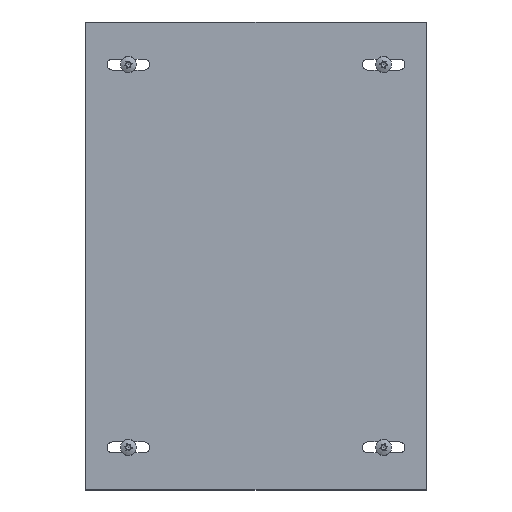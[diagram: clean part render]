
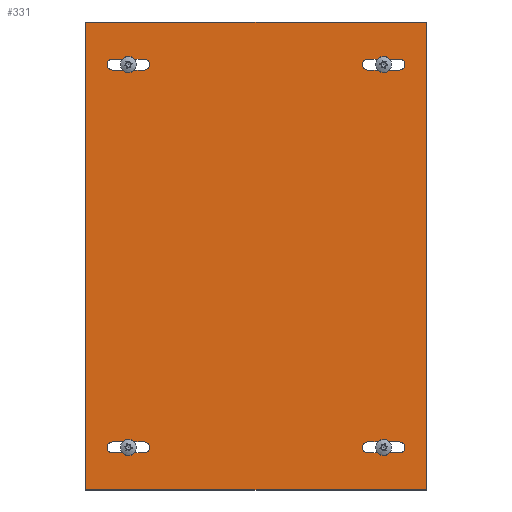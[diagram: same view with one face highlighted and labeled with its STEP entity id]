
A CAD part, top view. The second image highlights one B-rep face of the part: STEP entity #331.
In plain terms, the highlighted planar face has unit normal (0, 0, 1).
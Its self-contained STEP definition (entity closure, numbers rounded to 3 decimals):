
#55 = EDGE_CURVE('',#56,#58,#60,.T.);
#56 = VERTEX_POINT('',#57);
#57 = CARTESIAN_POINT('',(-100.,137.5,0.));
#58 = VERTEX_POINT('',#59);
#59 = CARTESIAN_POINT('',(-100.,-137.5,0.));
#60 = LINE('',#61,#62);
#61 = CARTESIAN_POINT('',(-100.,-137.5,0.));
#62 = VECTOR('',#63,1.);
#63 = DIRECTION('',(-0.,-1.,-0.));
#95 = EDGE_CURVE('',#96,#56,#98,.T.);
#96 = VERTEX_POINT('',#97);
#97 = CARTESIAN_POINT('',(100.,137.5,0.));
#98 = LINE('',#99,#100);
#99 = CARTESIAN_POINT('',(100.,137.5,0.));
#100 = VECTOR('',#101,1.);
#101 = DIRECTION('',(-1.,0.,0.));
#126 = EDGE_CURVE('',#127,#96,#129,.T.);
#127 = VERTEX_POINT('',#128);
#128 = CARTESIAN_POINT('',(100.,-137.5,0.));
#129 = LINE('',#130,#131);
#130 = CARTESIAN_POINT('',(100.,-137.5,0.));
#131 = VECTOR('',#132,1.);
#132 = DIRECTION('',(0.,1.,0.));
#157 = EDGE_CURVE('',#58,#127,#158,.T.);
#158 = LINE('',#159,#160);
#159 = CARTESIAN_POINT('',(100.,-137.5,0.));
#160 = VECTOR('',#161,1.);
#161 = DIRECTION('',(1.,-0.,-0.));
#331 = ADVANCED_FACE('',(#332,#368,#404,#440,#476),#482,.T.);
#332 = FACE_BOUND('',#333,.T.);
#333 = EDGE_LOOP('',(#334,#345,#353,#362));
#334 = ORIENTED_EDGE('',*,*,#335,.F.);
#335 = EDGE_CURVE('',#336,#338,#340,.T.);
#336 = VERTEX_POINT('',#337);
#337 = CARTESIAN_POINT('',(-65.75,-115.75,0.));
#338 = VERTEX_POINT('',#339);
#339 = CARTESIAN_POINT('',(-65.75,-109.25,0.));
#340 = CIRCLE('',#341,3.25);
#341 = AXIS2_PLACEMENT_3D('',#342,#343,#344);
#342 = CARTESIAN_POINT('',(-65.75,-112.5,0.));
#343 = DIRECTION('',(0.,0.,1.));
#344 = DIRECTION('',(1.,0.,-0.));
#345 = ORIENTED_EDGE('',*,*,#346,.F.);
#346 = EDGE_CURVE('',#347,#336,#349,.T.);
#347 = VERTEX_POINT('',#348);
#348 = CARTESIAN_POINT('',(-84.25,-115.75,0.));
#349 = LINE('',#350,#351);
#350 = CARTESIAN_POINT('',(-65.75,-115.75,0.));
#351 = VECTOR('',#352,1.);
#352 = DIRECTION('',(1.,-0.,-0.));
#353 = ORIENTED_EDGE('',*,*,#354,.F.);
#354 = EDGE_CURVE('',#355,#347,#357,.T.);
#355 = VERTEX_POINT('',#356);
#356 = CARTESIAN_POINT('',(-84.25,-109.25,0.));
#357 = CIRCLE('',#358,3.25);
#358 = AXIS2_PLACEMENT_3D('',#359,#360,#361);
#359 = CARTESIAN_POINT('',(-84.25,-112.5,0.));
#360 = DIRECTION('',(0.,0.,1.));
#361 = DIRECTION('',(1.,0.,-0.));
#362 = ORIENTED_EDGE('',*,*,#363,.F.);
#363 = EDGE_CURVE('',#338,#355,#364,.T.);
#364 = LINE('',#365,#366);
#365 = CARTESIAN_POINT('',(-65.75,-109.25,0.));
#366 = VECTOR('',#367,1.);
#367 = DIRECTION('',(-1.,0.,0.));
#368 = FACE_BOUND('',#369,.T.);
#369 = EDGE_LOOP('',(#370,#381,#389,#398));
#370 = ORIENTED_EDGE('',*,*,#371,.F.);
#371 = EDGE_CURVE('',#372,#374,#376,.T.);
#372 = VERTEX_POINT('',#373);
#373 = CARTESIAN_POINT('',(-65.75,109.25,0.));
#374 = VERTEX_POINT('',#375);
#375 = CARTESIAN_POINT('',(-65.75,115.75,0.));
#376 = CIRCLE('',#377,3.25);
#377 = AXIS2_PLACEMENT_3D('',#378,#379,#380);
#378 = CARTESIAN_POINT('',(-65.75,112.5,0.));
#379 = DIRECTION('',(0.,0.,1.));
#380 = DIRECTION('',(-1.,0.,0.));
#381 = ORIENTED_EDGE('',*,*,#382,.F.);
#382 = EDGE_CURVE('',#383,#372,#385,.T.);
#383 = VERTEX_POINT('',#384);
#384 = CARTESIAN_POINT('',(-84.25,109.25,0.));
#385 = LINE('',#386,#387);
#386 = CARTESIAN_POINT('',(-65.75,109.25,0.));
#387 = VECTOR('',#388,1.);
#388 = DIRECTION('',(1.,0.,-0.));
#389 = ORIENTED_EDGE('',*,*,#390,.F.);
#390 = EDGE_CURVE('',#391,#383,#393,.T.);
#391 = VERTEX_POINT('',#392);
#392 = CARTESIAN_POINT('',(-84.25,115.75,0.));
#393 = CIRCLE('',#394,3.25);
#394 = AXIS2_PLACEMENT_3D('',#395,#396,#397);
#395 = CARTESIAN_POINT('',(-84.25,112.5,0.));
#396 = DIRECTION('',(0.,0.,1.));
#397 = DIRECTION('',(-1.,0.,0.));
#398 = ORIENTED_EDGE('',*,*,#399,.F.);
#399 = EDGE_CURVE('',#374,#391,#400,.T.);
#400 = LINE('',#401,#402);
#401 = CARTESIAN_POINT('',(-65.75,115.75,0.));
#402 = VECTOR('',#403,1.);
#403 = DIRECTION('',(-1.,0.,0.));
#404 = FACE_BOUND('',#405,.T.);
#405 = EDGE_LOOP('',(#406,#417,#425,#434));
#406 = ORIENTED_EDGE('',*,*,#407,.F.);
#407 = EDGE_CURVE('',#408,#410,#412,.T.);
#408 = VERTEX_POINT('',#409);
#409 = CARTESIAN_POINT('',(65.75,115.75,0.));
#410 = VERTEX_POINT('',#411);
#411 = CARTESIAN_POINT('',(65.75,109.25,0.));
#412 = CIRCLE('',#413,3.25);
#413 = AXIS2_PLACEMENT_3D('',#414,#415,#416);
#414 = CARTESIAN_POINT('',(65.75,112.5,0.));
#415 = DIRECTION('',(0.,0.,1.));
#416 = DIRECTION('',(1.,0.,-0.));
#417 = ORIENTED_EDGE('',*,*,#418,.F.);
#418 = EDGE_CURVE('',#419,#408,#421,.T.);
#419 = VERTEX_POINT('',#420);
#420 = CARTESIAN_POINT('',(84.25,115.75,0.));
#421 = LINE('',#422,#423);
#422 = CARTESIAN_POINT('',(65.75,115.75,0.));
#423 = VECTOR('',#424,1.);
#424 = DIRECTION('',(-1.,-0.,-0.));
#425 = ORIENTED_EDGE('',*,*,#426,.F.);
#426 = EDGE_CURVE('',#427,#419,#429,.T.);
#427 = VERTEX_POINT('',#428);
#428 = CARTESIAN_POINT('',(84.25,109.25,0.));
#429 = CIRCLE('',#430,3.25);
#430 = AXIS2_PLACEMENT_3D('',#431,#432,#433);
#431 = CARTESIAN_POINT('',(84.25,112.5,0.));
#432 = DIRECTION('',(0.,0.,1.));
#433 = DIRECTION('',(1.,0.,-0.));
#434 = ORIENTED_EDGE('',*,*,#435,.F.);
#435 = EDGE_CURVE('',#410,#427,#436,.T.);
#436 = LINE('',#437,#438);
#437 = CARTESIAN_POINT('',(65.75,109.25,0.));
#438 = VECTOR('',#439,1.);
#439 = DIRECTION('',(1.,0.,0.));
#440 = FACE_BOUND('',#441,.T.);
#441 = EDGE_LOOP('',(#442,#453,#461,#470));
#442 = ORIENTED_EDGE('',*,*,#443,.F.);
#443 = EDGE_CURVE('',#444,#446,#448,.T.);
#444 = VERTEX_POINT('',#445);
#445 = CARTESIAN_POINT('',(65.75,-109.25,0.));
#446 = VERTEX_POINT('',#447);
#447 = CARTESIAN_POINT('',(65.75,-115.75,0.));
#448 = CIRCLE('',#449,3.25);
#449 = AXIS2_PLACEMENT_3D('',#450,#451,#452);
#450 = CARTESIAN_POINT('',(65.75,-112.5,0.));
#451 = DIRECTION('',(0.,0.,1.));
#452 = DIRECTION('',(-1.,0.,0.));
#453 = ORIENTED_EDGE('',*,*,#454,.F.);
#454 = EDGE_CURVE('',#455,#444,#457,.T.);
#455 = VERTEX_POINT('',#456);
#456 = CARTESIAN_POINT('',(84.25,-109.25,0.));
#457 = LINE('',#458,#459);
#458 = CARTESIAN_POINT('',(65.75,-109.25,0.));
#459 = VECTOR('',#460,1.);
#460 = DIRECTION('',(-1.,-0.,-0.));
#461 = ORIENTED_EDGE('',*,*,#462,.F.);
#462 = EDGE_CURVE('',#463,#455,#465,.T.);
#463 = VERTEX_POINT('',#464);
#464 = CARTESIAN_POINT('',(84.25,-115.75,0.));
#465 = CIRCLE('',#466,3.25);
#466 = AXIS2_PLACEMENT_3D('',#467,#468,#469);
#467 = CARTESIAN_POINT('',(84.25,-112.5,0.));
#468 = DIRECTION('',(0.,0.,1.));
#469 = DIRECTION('',(-1.,0.,0.));
#470 = ORIENTED_EDGE('',*,*,#471,.F.);
#471 = EDGE_CURVE('',#446,#463,#472,.T.);
#472 = LINE('',#473,#474);
#473 = CARTESIAN_POINT('',(65.75,-115.75,0.));
#474 = VECTOR('',#475,1.);
#475 = DIRECTION('',(1.,0.,0.));
#476 = FACE_BOUND('',#477,.T.);
#477 = EDGE_LOOP('',(#478,#479,#480,#481));
#478 = ORIENTED_EDGE('',*,*,#55,.T.);
#479 = ORIENTED_EDGE('',*,*,#157,.T.);
#480 = ORIENTED_EDGE('',*,*,#126,.T.);
#481 = ORIENTED_EDGE('',*,*,#95,.T.);
#482 = PLANE('',#483);
#483 = AXIS2_PLACEMENT_3D('',#484,#485,#486);
#484 = CARTESIAN_POINT('',(0.,0.,0.));
#485 = DIRECTION('',(0.,-0.,1.));
#486 = DIRECTION('',(1.,0.,0.));
